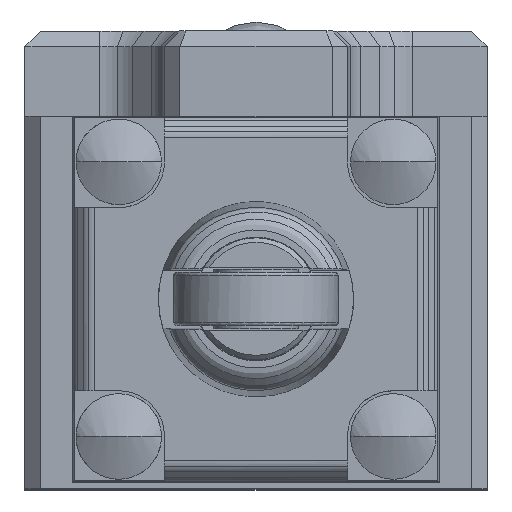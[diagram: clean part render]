
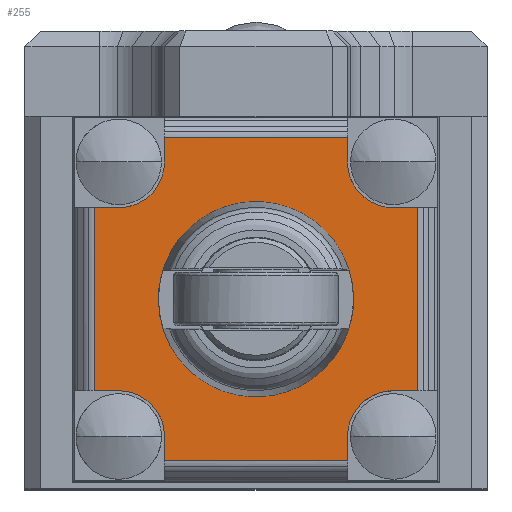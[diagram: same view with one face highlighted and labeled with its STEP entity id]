
A CAD part, top view. The second image highlights one B-rep face of the part: STEP entity #255.
In plain terms, the highlighted planar face has unit normal (0, 0, 1).
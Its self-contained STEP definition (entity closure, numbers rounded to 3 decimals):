
#40=FACE_BOUND('',#707,.T.);
#255=ADVANCED_FACE('',(#474,#40),#3459,.T.);
#474=FACE_OUTER_BOUND('',#706,.T.);
#706=EDGE_LOOP('',(#1707,#1708,#1709,#1710,#1711,#1712,#1713,#1714,#1715,
#1716,#1717,#1718,#1719,#1720,#1721,#1722,#1723));
#707=EDGE_LOOP('',(#1724,#1725));
#1707=ORIENTED_EDGE('',*,*,#2331,.T.);
#1708=ORIENTED_EDGE('',*,*,#2231,.T.);
#1709=ORIENTED_EDGE('',*,*,#2329,.T.);
#1710=ORIENTED_EDGE('',*,*,#2330,.T.);
#1711=ORIENTED_EDGE('',*,*,#2358,.F.);
#1712=ORIENTED_EDGE('',*,*,#2345,.T.);
#1713=ORIENTED_EDGE('',*,*,#2346,.T.);
#1714=ORIENTED_EDGE('',*,*,#2349,.T.);
#1715=ORIENTED_EDGE('',*,*,#2362,.T.);
#1716=ORIENTED_EDGE('',*,*,#2339,.T.);
#1717=ORIENTED_EDGE('',*,*,#2340,.T.);
#1718=ORIENTED_EDGE('',*,*,#2343,.T.);
#1719=ORIENTED_EDGE('',*,*,#2363,.T.);
#1720=ORIENTED_EDGE('',*,*,#2333,.T.);
#1721=ORIENTED_EDGE('',*,*,#2334,.T.);
#1722=ORIENTED_EDGE('',*,*,#2337,.T.);
#1723=ORIENTED_EDGE('',*,*,#2387,.F.);
#1724=ORIENTED_EDGE('',*,*,#2280,.F.);
#1725=ORIENTED_EDGE('',*,*,#2241,.F.);
#2231=EDGE_CURVE('',#3245,#3244,#2913,.T.);
#2241=EDGE_CURVE('',#3256,#3257,#2919,.T.);
#2280=EDGE_CURVE('',#3257,#3256,#2949,.T.);
#2329=EDGE_CURVE('',#3244,#3309,#2973,.T.);
#2330=EDGE_CURVE('',#3309,#3310,#2718,.T.);
#2331=EDGE_CURVE('',#3311,#3245,#2719,.T.);
#2333=EDGE_CURVE('',#3313,#3312,#2721,.T.);
#2334=EDGE_CURVE('',#3312,#3314,#2974,.T.);
#2337=EDGE_CURVE('',#3314,#3315,#2723,.T.);
#2339=EDGE_CURVE('',#3317,#3316,#2725,.T.);
#2340=EDGE_CURVE('',#3316,#3318,#2976,.T.);
#2343=EDGE_CURVE('',#3318,#3319,#2727,.T.);
#2345=EDGE_CURVE('',#3321,#3320,#2729,.T.);
#2346=EDGE_CURVE('',#3320,#3322,#2978,.T.);
#2349=EDGE_CURVE('',#3322,#3323,#2731,.T.);
#2358=EDGE_CURVE('',#3321,#3310,#2738,.T.);
#2362=EDGE_CURVE('',#3323,#3317,#2740,.T.);
#2363=EDGE_CURVE('',#3319,#3313,#2741,.T.);
#2387=EDGE_CURVE('',#3311,#3315,#2760,.T.);
#2718=B_SPLINE_CURVE_WITH_KNOTS('',1,(#7280,#7281),.UNSPECIFIED.,.F.,.F.,
(2,2),(-1.586,0.),.UNSPECIFIED.);
#2719=B_SPLINE_CURVE_WITH_KNOTS('',1,(#7282,#7283),.UNSPECIFIED.,.F.,.F.,
(2,2),(-1.586,0.),.UNSPECIFIED.);
#2721=B_SPLINE_CURVE_WITH_KNOTS('',1,(#7286,#7287),.UNSPECIFIED.,.F.,.F.,
(2,2),(-1.586,0.),.UNSPECIFIED.);
#2723=B_SPLINE_CURVE_WITH_KNOTS('',1,(#7296,#7297),.UNSPECIFIED.,.F.,.F.,
(2,2),(-1.586,0.),.UNSPECIFIED.);
#2725=B_SPLINE_CURVE_WITH_KNOTS('',1,(#7300,#7301),.UNSPECIFIED.,.F.,.F.,
(2,2),(-1.586,0.),.UNSPECIFIED.);
#2727=B_SPLINE_CURVE_WITH_KNOTS('',1,(#7310,#7311),.UNSPECIFIED.,.F.,.F.,
(2,2),(-1.586,0.),.UNSPECIFIED.);
#2729=B_SPLINE_CURVE_WITH_KNOTS('',1,(#7314,#7315),.UNSPECIFIED.,.F.,.F.,
(2,2),(-1.586,0.),.UNSPECIFIED.);
#2731=B_SPLINE_CURVE_WITH_KNOTS('',1,(#7324,#7325),.UNSPECIFIED.,.F.,.F.,
(2,2),(-1.586,0.),.UNSPECIFIED.);
#2738=B_SPLINE_CURVE_WITH_KNOTS('',1,(#7345,#7346),.UNSPECIFIED.,.F.,.F.,
(2,2),(0.,12.),.UNSPECIFIED.);
#2740=B_SPLINE_CURVE_WITH_KNOTS('',1,(#7356,#7357),.UNSPECIFIED.,.F.,.F.,
(2,2),(0.,12.),.UNSPECIFIED.);
#2741=B_SPLINE_CURVE_WITH_KNOTS('',1,(#7358,#7359),.UNSPECIFIED.,.F.,.F.,
(2,2),(0.,12.),.UNSPECIFIED.);
#2760=B_SPLINE_CURVE_WITH_KNOTS('',1,(#7413,#7414),.UNSPECIFIED.,.F.,.F.,
(2,2),(0.,12.),.UNSPECIFIED.);
#2913=(
BOUNDED_CURVE()
B_SPLINE_CURVE(2,(#6937,#6938,#6939),.UNSPECIFIED.,.F.,.F.)
B_SPLINE_CURVE_WITH_KNOTS((3,3),(-2.356,0.),.UNSPECIFIED.)
CURVE()
GEOMETRIC_REPRESENTATION_ITEM()
RATIONAL_B_SPLINE_CURVE((1.,0.924,1.))
REPRESENTATION_ITEM('')
);
#2919=(
BOUNDED_CURVE()
B_SPLINE_CURVE(2,(#6967,#6968,#6969,#6970,#6971),.UNSPECIFIED.,.F.,.F.)
B_SPLINE_CURVE_WITH_KNOTS((3,2,3),(0.,10.053,20.106),
 .UNSPECIFIED.)
CURVE()
GEOMETRIC_REPRESENTATION_ITEM()
RATIONAL_B_SPLINE_CURVE((1.,0.707,1.,0.707,1.))
REPRESENTATION_ITEM('')
);
#2949=(
BOUNDED_CURVE()
B_SPLINE_CURVE(2,(#7113,#7114,#7115,#7116,#7117),.UNSPECIFIED.,.F.,.F.)
B_SPLINE_CURVE_WITH_KNOTS((3,2,3),(0.,10.053,20.106),
 .UNSPECIFIED.)
CURVE()
GEOMETRIC_REPRESENTATION_ITEM()
RATIONAL_B_SPLINE_CURVE((1.,0.707,1.,0.707,1.))
REPRESENTATION_ITEM('')
);
#2973=(
BOUNDED_CURVE()
B_SPLINE_CURVE(2,(#7277,#7278,#7279),.UNSPECIFIED.,.F.,.F.)
B_SPLINE_CURVE_WITH_KNOTS((3,3),(-2.356,0.),.UNSPECIFIED.)
CURVE()
GEOMETRIC_REPRESENTATION_ITEM()
RATIONAL_B_SPLINE_CURVE((1.,0.924,1.))
REPRESENTATION_ITEM('')
);
#2974=(
BOUNDED_CURVE()
B_SPLINE_CURVE(2,(#7288,#7289,#7290),.UNSPECIFIED.,.F.,.F.)
B_SPLINE_CURVE_WITH_KNOTS((3,3),(-4.712,0.),.UNSPECIFIED.)
CURVE()
GEOMETRIC_REPRESENTATION_ITEM()
RATIONAL_B_SPLINE_CURVE((1.,0.707,1.))
REPRESENTATION_ITEM('')
);
#2976=(
BOUNDED_CURVE()
B_SPLINE_CURVE(2,(#7302,#7303,#7304),.UNSPECIFIED.,.F.,.F.)
B_SPLINE_CURVE_WITH_KNOTS((3,3),(-4.712,0.),.UNSPECIFIED.)
CURVE()
GEOMETRIC_REPRESENTATION_ITEM()
RATIONAL_B_SPLINE_CURVE((1.,0.707,1.))
REPRESENTATION_ITEM('')
);
#2978=(
BOUNDED_CURVE()
B_SPLINE_CURVE(2,(#7316,#7317,#7318),.UNSPECIFIED.,.F.,.F.)
B_SPLINE_CURVE_WITH_KNOTS((3,3),(-4.712,0.),.UNSPECIFIED.)
CURVE()
GEOMETRIC_REPRESENTATION_ITEM()
RATIONAL_B_SPLINE_CURVE((1.,0.707,1.))
REPRESENTATION_ITEM('')
);
#3244=VERTEX_POINT('',#6700);
#3245=VERTEX_POINT('',#6701);
#3256=VERTEX_POINT('',#6712);
#3257=VERTEX_POINT('',#6713);
#3309=VERTEX_POINT('',#6765);
#3310=VERTEX_POINT('',#6766);
#3311=VERTEX_POINT('',#6767);
#3312=VERTEX_POINT('',#6768);
#3313=VERTEX_POINT('',#6769);
#3314=VERTEX_POINT('',#6770);
#3315=VERTEX_POINT('',#6771);
#3316=VERTEX_POINT('',#6772);
#3317=VERTEX_POINT('',#6773);
#3318=VERTEX_POINT('',#6774);
#3319=VERTEX_POINT('',#6775);
#3320=VERTEX_POINT('',#6776);
#3321=VERTEX_POINT('',#6777);
#3322=VERTEX_POINT('',#6778);
#3323=VERTEX_POINT('',#6779);
#3459=PLANE('',#3845);
#3845=AXIS2_PLACEMENT_3D('',#6630,#4046,$);
#4046=DIRECTION('',(0.,0.,1.));
#6630=CARTESIAN_POINT('',(-12.703,-25.103,13.8));
#6700=CARTESIAN_POINT('',(6.879,-19.279,13.8));
#6701=CARTESIAN_POINT('',(6.,-21.4,13.8));
#6712=CARTESIAN_POINT('',(-6.4,-12.4,13.8));
#6713=CARTESIAN_POINT('',(6.4,-12.4,13.8));
#6765=CARTESIAN_POINT('',(9.,-18.4,13.8));
#6766=CARTESIAN_POINT('',(10.586,-18.4,13.8));
#6767=CARTESIAN_POINT('',(6.,-22.986,13.8));
#6768=CARTESIAN_POINT('',(-9.,-18.4,13.8));
#6769=CARTESIAN_POINT('',(-10.586,-18.4,13.8));
#6770=CARTESIAN_POINT('',(-6.,-21.4,13.8));
#6771=CARTESIAN_POINT('',(-6.,-22.986,13.8));
#6772=CARTESIAN_POINT('',(-6.,-3.4,13.8));
#6773=CARTESIAN_POINT('',(-6.,-1.814,13.8));
#6774=CARTESIAN_POINT('',(-9.,-6.4,13.8));
#6775=CARTESIAN_POINT('',(-10.586,-6.4,13.8));
#6776=CARTESIAN_POINT('',(9.,-6.4,13.8));
#6777=CARTESIAN_POINT('',(10.586,-6.4,13.8));
#6778=CARTESIAN_POINT('',(6.,-3.4,13.8));
#6779=CARTESIAN_POINT('',(6.,-1.814,13.8));
#6937=CARTESIAN_POINT('',(6.,-21.4,13.8));
#6938=CARTESIAN_POINT('',(6.,-20.157,13.8));
#6939=CARTESIAN_POINT('',(6.879,-19.279,13.8));
#6967=CARTESIAN_POINT('',(-6.4,-12.4,13.8));
#6968=CARTESIAN_POINT('',(-6.4,-18.8,13.8));
#6969=CARTESIAN_POINT('',(0.,-18.8,13.8));
#6970=CARTESIAN_POINT('',(6.4,-18.8,13.8));
#6971=CARTESIAN_POINT('',(6.4,-12.4,13.8));
#7113=CARTESIAN_POINT('',(6.4,-12.4,13.8));
#7114=CARTESIAN_POINT('',(6.4,-6.,13.8));
#7115=CARTESIAN_POINT('',(0.,-6.,13.8));
#7116=CARTESIAN_POINT('',(-6.4,-6.,13.8));
#7117=CARTESIAN_POINT('',(-6.4,-12.4,13.8));
#7277=CARTESIAN_POINT('',(6.879,-19.279,13.8));
#7278=CARTESIAN_POINT('',(7.757,-18.4,13.8));
#7279=CARTESIAN_POINT('',(9.,-18.4,13.8));
#7280=CARTESIAN_POINT('',(9.,-18.4,13.8));
#7281=CARTESIAN_POINT('',(10.586,-18.4,13.8));
#7282=CARTESIAN_POINT('',(6.,-22.986,13.8));
#7283=CARTESIAN_POINT('',(6.,-21.4,13.8));
#7286=CARTESIAN_POINT('',(-10.586,-18.4,13.8));
#7287=CARTESIAN_POINT('',(-9.,-18.4,13.8));
#7288=CARTESIAN_POINT('',(-9.,-18.4,13.8));
#7289=CARTESIAN_POINT('',(-6.,-18.4,13.8));
#7290=CARTESIAN_POINT('',(-6.,-21.4,13.8));
#7296=CARTESIAN_POINT('',(-6.,-21.4,13.8));
#7297=CARTESIAN_POINT('',(-6.,-22.986,13.8));
#7300=CARTESIAN_POINT('',(-6.,-1.814,13.8));
#7301=CARTESIAN_POINT('',(-6.,-3.4,13.8));
#7302=CARTESIAN_POINT('',(-6.,-3.4,13.8));
#7303=CARTESIAN_POINT('',(-6.,-6.4,13.8));
#7304=CARTESIAN_POINT('',(-9.,-6.4,13.8));
#7310=CARTESIAN_POINT('',(-9.,-6.4,13.8));
#7311=CARTESIAN_POINT('',(-10.586,-6.4,13.8));
#7314=CARTESIAN_POINT('',(10.586,-6.4,13.8));
#7315=CARTESIAN_POINT('',(9.,-6.4,13.8));
#7316=CARTESIAN_POINT('',(9.,-6.4,13.8));
#7317=CARTESIAN_POINT('',(6.,-6.4,13.8));
#7318=CARTESIAN_POINT('',(6.,-3.4,13.8));
#7324=CARTESIAN_POINT('',(6.,-3.4,13.8));
#7325=CARTESIAN_POINT('',(6.,-1.814,13.8));
#7345=CARTESIAN_POINT('',(10.586,-6.4,13.8));
#7346=CARTESIAN_POINT('',(10.586,-18.4,13.8));
#7356=CARTESIAN_POINT('',(6.,-1.814,13.8));
#7357=CARTESIAN_POINT('',(-6.,-1.814,13.8));
#7358=CARTESIAN_POINT('',(-10.586,-6.4,13.8));
#7359=CARTESIAN_POINT('',(-10.586,-18.4,13.8));
#7413=CARTESIAN_POINT('',(6.,-22.986,13.8));
#7414=CARTESIAN_POINT('',(-6.,-22.986,13.8));
